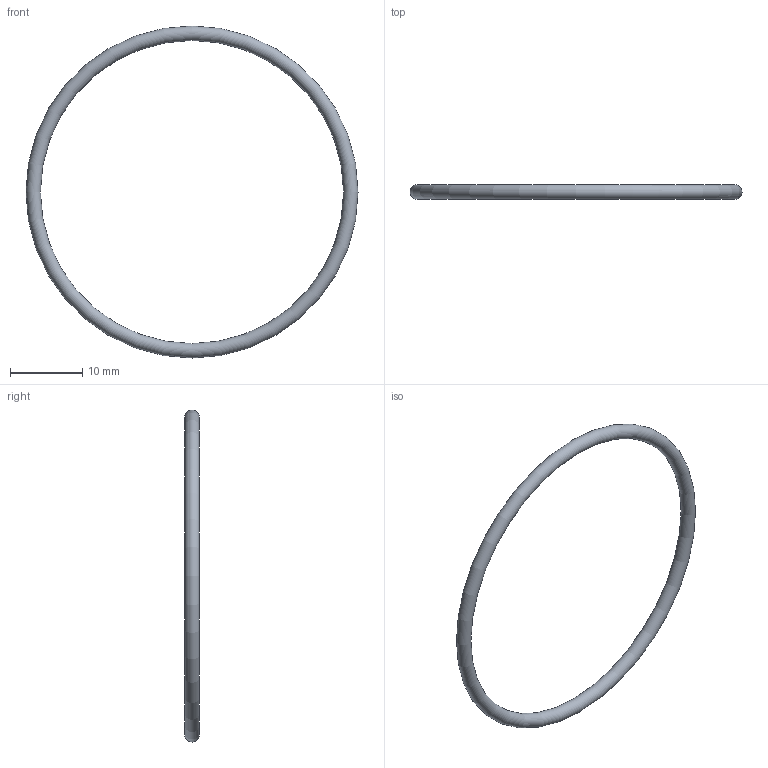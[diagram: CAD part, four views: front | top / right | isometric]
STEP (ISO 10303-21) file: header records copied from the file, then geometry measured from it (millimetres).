
FILE_DESCRIPTION( ( 'STEP AP203' ), '1' );
FILE_NAME( 'C:/Temp/Ganter_Step_05_03_2020/data/3_5/or638/O-Ring OR638-42.00-2.00-70.stp', '2020-03-12T13:44:23', ( 'License CC BY-ND 4.0' ), ( 'CADENAS' ), ' ', 'PARTsolutions', ' ' );
FILE_SCHEMA( ( 'CONFIG_CONTROL_DESIGN' ) );
Length unit declared in the file: millimetre
Products named in the file (1): _O-Ring OR638-42.00-2.00-70
Bounding box: 46 x 2 x 46 mm (x, y, z)
Volume: 434.3 mm3; surface area: 868.5 mm2
Topology: 1 solids, 1 shells, 1 faces, 2 edges, 1 vertices
Faces by surface type: torus 1
Entity records: 62 total; most frequent: CC_DESIGN_PERSON_AND_ORGANIZATION_ASSIGNMENT 5, PERSON_AND_ORGANIZATION_ROLE 4, DIRECTION 4, CARTESIAN_POINT 3, DATE_TIME_ROLE 2, CC_DESIGN_DATE_AND_TIME_ASSIGNMENT 2, AXIS2_PLACEMENT_3D 2, DIMENSIONAL_EXPONENTS 2
